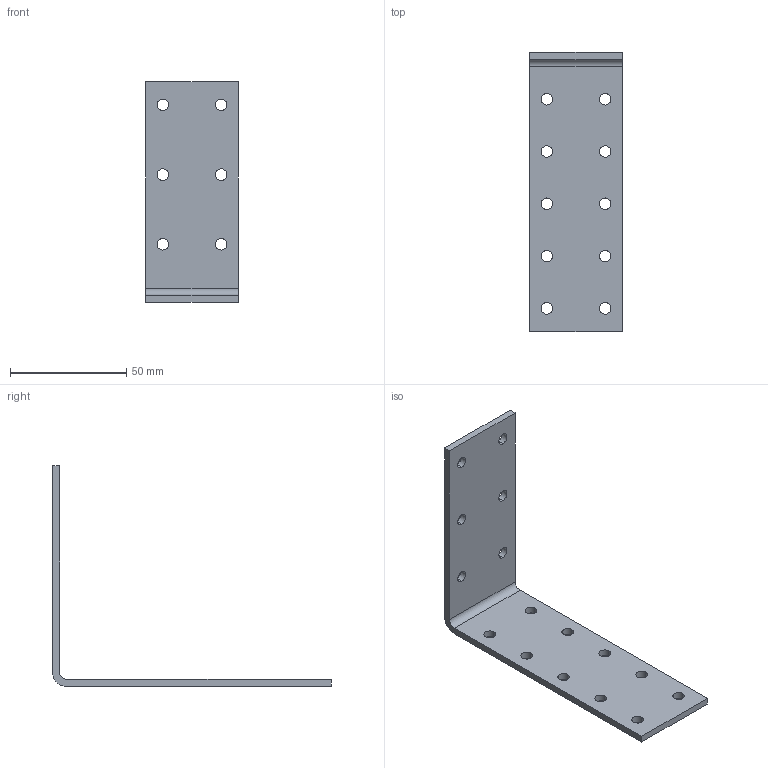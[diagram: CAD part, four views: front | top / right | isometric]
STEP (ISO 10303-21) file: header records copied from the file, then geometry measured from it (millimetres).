
FILE_DESCRIPTION (( 'STEP AP203' ), '1' );
FILE_NAME ('1293.STEP', '2019-11-27T14:41:18', ( '' ), ( '' ), 'SwSTEP 2.0', 'SolidWorks 2013', '' );
FILE_SCHEMA (( 'CONFIG_CONTROL_DESIGN' ));
Length unit declared in the file: millimetre
Products named in the file (1): 1293
Bounding box: 40 x 120 x 95 mm (x, y, z)
Volume: 24265.8 mm3; surface area: 18431.6 mm2
Topology: 1 solids, 1 shells, 42 faces, 120 edges, 80 vertices
Faces by surface type: cylinder 34, plane 8
Entity records: 1553 total; most frequent: DIRECTION 274, CARTESIAN_POINT 243, ORIENTED_EDGE 240, EDGE_CURVE 120, AXIS2_PLACEMENT_3D 111, VERTEX_POINT 80, EDGE_LOOP 74, CIRCLE 68
